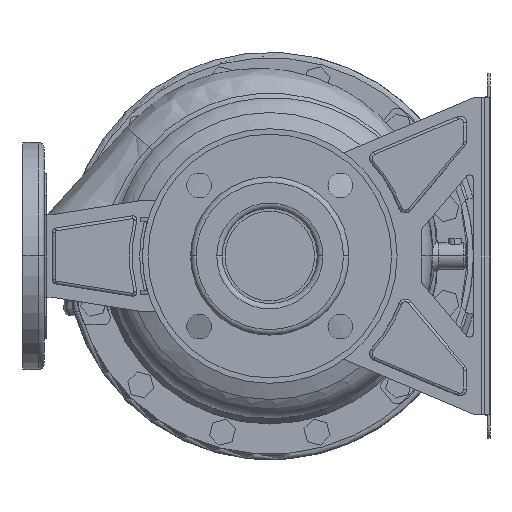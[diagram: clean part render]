
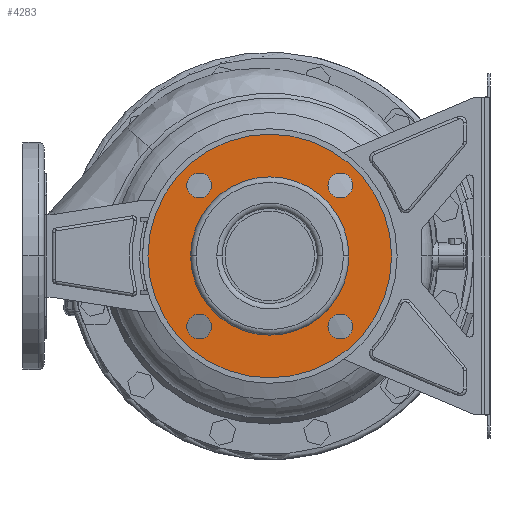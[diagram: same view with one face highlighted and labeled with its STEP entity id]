
A CAD part, front view. The second image highlights one B-rep face of the part: STEP entity #4283.
In plain terms, the highlighted planar face has unit normal (0, -1, 0).
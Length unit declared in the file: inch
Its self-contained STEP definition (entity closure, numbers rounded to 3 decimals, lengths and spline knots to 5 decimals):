
#1340 = VERTEX_POINT ( 'NONE', #29086 ) ;
#2837 = CARTESIAN_POINT ( 'NONE',  ( -2.01832, -8.58268, -2.01832 ) ) ;
#3667 = FACE_BOUND ( 'NONE', #78085, .T. ) ;
#4283 = ADVANCED_FACE ( 'NONE', ( #53280, #116013, #3667, #141308, #29696, #54082 ), #67097, .F. ) ;
#4491 = CARTESIAN_POINT ( 'NONE',  ( 2.01832, -8.58268, 2.01832 ) ) ;
#5421 = AXIS2_PLACEMENT_3D ( 'NONE', #4491, #80150, #15905 ) ;
#5665 = DIRECTION ( 'NONE',  ( 0., 1., 0. ) ) ;
#5760 = ORIENTED_EDGE ( 'NONE', *, *, #21704, .T. ) ;
#6627 = VERTEX_POINT ( 'NONE', #115362 ) ;
#8633 = DIRECTION ( 'NONE',  ( 0., 1., 0. ) ) ;
#11586 = DIRECTION ( 'NONE',  ( 0., 1., 0. ) ) ;
#11637 = DIRECTION ( 'NONE',  ( 0., 1., 0. ) ) ;
#12989 = CARTESIAN_POINT ( 'NONE',  ( 2.01832, -8.58268, 2.01832 ) ) ;
#14747 = VERTEX_POINT ( 'NONE', #58027 ) ;
#15363 = CARTESIAN_POINT ( 'NONE',  ( 3.48425, -8.58268, 0. ) ) ;
#15905 = DIRECTION ( 'NONE',  ( -1., 0., 0. ) ) ;
#17865 = CARTESIAN_POINT ( 'NONE',  ( 0., -8.58268, 0. ) ) ;
#19234 = CARTESIAN_POINT ( 'NONE',  ( -2.01832, -8.58268, 2.37265 ) ) ;
#21704 = EDGE_CURVE ( 'NONE', #72751, #1340, #77358, .T. ) ;
#23116 = ORIENTED_EDGE ( 'NONE', *, *, #138626, .T. ) ;
#25247 = CARTESIAN_POINT ( 'NONE',  ( -2.01832, -8.58268, 2.01832 ) ) ;
#25987 = DIRECTION ( 'NONE',  ( 0., 1., 0. ) ) ;
#26608 = VERTEX_POINT ( 'NONE', #89118 ) ;
#27367 = CARTESIAN_POINT ( 'NONE',  ( -1.66399, -8.58268, -2.01832 ) ) ;
#29086 = CARTESIAN_POINT ( 'NONE',  ( 2.26378, -8.58268, 0. ) ) ;
#29696 = FACE_BOUND ( 'NONE', #101661, .T. ) ;
#30215 = AXIS2_PLACEMENT_3D ( 'NONE', #112426, #38315, #90392 ) ;
#30977 = AXIS2_PLACEMENT_3D ( 'NONE', #12989, #25987, #138422 ) ;
#34668 = CARTESIAN_POINT ( 'NONE',  ( 2.01832, -8.58268, -2.01832 ) ) ;
#36043 = CARTESIAN_POINT ( 'NONE',  ( -2.01832, -8.58268, -2.01832 ) ) ;
#38315 = DIRECTION ( 'NONE',  ( 0., -1., 0. ) ) ;
#39085 = EDGE_CURVE ( 'NONE', #26608, #48362, #135304, .T. ) ;
#39939 = VERTEX_POINT ( 'NONE', #101101 ) ;
#40849 = DIRECTION ( 'NONE',  ( 0., 1., 0. ) ) ;
#43495 = DIRECTION ( 'NONE',  ( -1., 0., 0. ) ) ;
#44047 = EDGE_CURVE ( 'NONE', #72751, #1340, #121129, .T. ) ;
#46889 = DIRECTION ( 'NONE',  ( 0., -1., 0. ) ) ;
#48362 = VERTEX_POINT ( 'NONE', #115073 ) ;
#49007 = DIRECTION ( 'NONE',  ( 0., 0., 1. ) ) ;
#49772 = VERTEX_POINT ( 'NONE', #19234 ) ;
#49933 = EDGE_CURVE ( 'NONE', #73136, #14747, #159880, .T. ) ;
#52242 = AXIS2_PLACEMENT_3D ( 'NONE', #148417, #11586, #49007 ) ;
#53280 = FACE_OUTER_BOUND ( 'NONE', #60695, .T. ) ;
#53990 = AXIS2_PLACEMENT_3D ( 'NONE', #17865, #5665, #102584 ) ;
#54043 = EDGE_CURVE ( 'NONE', #14747, #73136, #157105, .T. ) ;
#54082 = FACE_BOUND ( 'NONE', #70227, .T. ) ;
#57467 = CIRCLE ( 'NONE', #5421, 0.35433 ) ;
#58027 = CARTESIAN_POINT ( 'NONE',  ( 2.01832, -8.58268, -2.37265 ) ) ;
#59532 = AXIS2_PLACEMENT_3D ( 'NONE', #36043, #11637, #135449 ) ;
#60391 = ORIENTED_EDGE ( 'NONE', *, *, #100213, .T. ) ;
#60695 = EDGE_LOOP ( 'NONE', ( #143950, #108794 ) ) ;
#61475 = DIRECTION ( 'NONE',  ( 0., 0., 1. ) ) ;
#63754 = VERTEX_POINT ( 'NONE', #27367 ) ;
#63996 = CIRCLE ( 'NONE', #30215, 3.48425 ) ;
#64318 = EDGE_CURVE ( 'NONE', #49772, #39939, #114348, .T. ) ;
#67097 = PLANE ( 'NONE',  #106950 ) ;
#70227 = EDGE_LOOP ( 'NONE', ( #153471, #60391 ) ) ;
#72549 = CIRCLE ( 'NONE', #59532, 0.35433 ) ;
#72751 = VERTEX_POINT ( 'NONE', #94322 ) ;
#73136 = VERTEX_POINT ( 'NONE', #87514 ) ;
#74076 = ORIENTED_EDGE ( 'NONE', *, *, #137246, .T. ) ;
#77358 = CIRCLE ( 'NONE', #53990, 2.26378 ) ;
#78085 = EDGE_LOOP ( 'NONE', ( #94657, #119381 ) ) ;
#80150 = DIRECTION ( 'NONE',  ( 0., 1., 0. ) ) ;
#82244 = VERTEX_POINT ( 'NONE', #102652 ) ;
#84238 = ORIENTED_EDGE ( 'NONE', *, *, #49933, .T. ) ;
#85101 = CARTESIAN_POINT ( 'NONE',  ( 0., -8.58268, 0. ) ) ;
#86267 = AXIS2_PLACEMENT_3D ( 'NONE', #85101, #8633, #107961 ) ;
#86818 = AXIS2_PLACEMENT_3D ( 'NONE', #103532, #40849, #90517 ) ;
#87514 = CARTESIAN_POINT ( 'NONE',  ( 2.01832, -8.58268, -1.66399 ) ) ;
#89118 = CARTESIAN_POINT ( 'NONE',  ( 2.37265, -8.58268, 2.01832 ) ) ;
#89948 = DIRECTION ( 'NONE',  ( 0., 1., 0. ) ) ;
#90392 = DIRECTION ( 'NONE',  ( -1., 0., 0. ) ) ;
#90517 = DIRECTION ( 'NONE',  ( 0., 0., -1. ) ) ;
#90746 = DIRECTION ( 'NONE',  ( -1., 0., 0. ) ) ;
#93152 = DIRECTION ( 'NONE',  ( 0., 1., 0. ) ) ;
#94322 = CARTESIAN_POINT ( 'NONE',  ( -2.26378, -8.58268, 0. ) ) ;
#94657 = ORIENTED_EDGE ( 'NONE', *, *, #39085, .T. ) ;
#95815 = AXIS2_PLACEMENT_3D ( 'NONE', #2837, #89948, #90746 ) ;
#99350 = DIRECTION ( 'NONE',  ( 0., 0., -1. ) ) ;
#100213 = EDGE_CURVE ( 'NONE', #39939, #49772, #131144, .T. ) ;
#100939 = DIRECTION ( 'NONE',  ( 0., 1., 0. ) ) ;
#101101 = CARTESIAN_POINT ( 'NONE',  ( -2.01832, -8.58268, 1.66399 ) ) ;
#101661 = EDGE_LOOP ( 'NONE', ( #74076, #23116 ) ) ;
#102056 = ORIENTED_EDGE ( 'NONE', *, *, #54043, .T. ) ;
#102584 = DIRECTION ( 'NONE',  ( -1., 0., 0. ) ) ;
#102652 = CARTESIAN_POINT ( 'NONE',  ( -2.37265, -8.58268, -2.01832 ) ) ;
#103532 = CARTESIAN_POINT ( 'NONE',  ( 2.01832, -8.58268, -2.01832 ) ) ;
#105190 = AXIS2_PLACEMENT_3D ( 'NONE', #34668, #134046, #61475 ) ;
#106950 = AXIS2_PLACEMENT_3D ( 'NONE', #155105, #93152, #43495 ) ;
#107296 = EDGE_LOOP ( 'NONE', ( #112450, #5760 ) ) ;
#107961 = DIRECTION ( 'NONE',  ( -1., 0., 0. ) ) ;
#108794 = ORIENTED_EDGE ( 'NONE', *, *, #110438, .T. ) ;
#110438 = EDGE_CURVE ( 'NONE', #6627, #126659, #63996, .T. ) ;
#112426 = CARTESIAN_POINT ( 'NONE',  ( 0., -8.58268, 0. ) ) ;
#112450 = ORIENTED_EDGE ( 'NONE', *, *, #44047, .F. ) ;
#114348 = CIRCLE ( 'NONE', #52242, 0.35433 ) ;
#114875 = CIRCLE ( 'NONE', #86267, 3.48425 ) ;
#115073 = CARTESIAN_POINT ( 'NONE',  ( 1.66399, -8.58268, 2.01832 ) ) ;
#115362 = CARTESIAN_POINT ( 'NONE',  ( -3.48425, -8.58268, 0. ) ) ;
#116013 = FACE_BOUND ( 'NONE', #107296, .T. ) ;
#118088 = AXIS2_PLACEMENT_3D ( 'NONE', #25247, #100939, #99350 ) ;
#119381 = ORIENTED_EDGE ( 'NONE', *, *, #123948, .T. ) ;
#121129 = CIRCLE ( 'NONE', #123673, 2.26378 ) ;
#123673 = AXIS2_PLACEMENT_3D ( 'NONE', #160112, #46889, #137300 ) ;
#123948 = EDGE_CURVE ( 'NONE', #48362, #26608, #57467, .T. ) ;
#126659 = VERTEX_POINT ( 'NONE', #15363 ) ;
#131144 = CIRCLE ( 'NONE', #118088, 0.35433 ) ;
#132275 = CIRCLE ( 'NONE', #95815, 0.35433 ) ;
#134046 = DIRECTION ( 'NONE',  ( 0., 1., 0. ) ) ;
#135304 = CIRCLE ( 'NONE', #30977, 0.35433 ) ;
#135449 = DIRECTION ( 'NONE',  ( 1., 0., 0. ) ) ;
#137246 = EDGE_CURVE ( 'NONE', #82244, #63754, #132275, .T. ) ;
#137300 = DIRECTION ( 'NONE',  ( -1., 0., 0. ) ) ;
#138422 = DIRECTION ( 'NONE',  ( 1., 0., 0. ) ) ;
#138626 = EDGE_CURVE ( 'NONE', #63754, #82244, #72549, .T. ) ;
#141308 = FACE_BOUND ( 'NONE', #156614, .T. ) ;
#143496 = EDGE_CURVE ( 'NONE', #6627, #126659, #114875, .T. ) ;
#143950 = ORIENTED_EDGE ( 'NONE', *, *, #143496, .F. ) ;
#148417 = CARTESIAN_POINT ( 'NONE',  ( -2.01832, -8.58268, 2.01832 ) ) ;
#153471 = ORIENTED_EDGE ( 'NONE', *, *, #64318, .T. ) ;
#155105 = CARTESIAN_POINT ( 'NONE',  ( 0., -8.58268, 0. ) ) ;
#156614 = EDGE_LOOP ( 'NONE', ( #102056, #84238 ) ) ;
#157105 = CIRCLE ( 'NONE', #86818, 0.35433 ) ;
#159880 = CIRCLE ( 'NONE', #105190, 0.35433 ) ;
#160112 = CARTESIAN_POINT ( 'NONE',  ( 0., -8.58268, 0. ) ) ;
